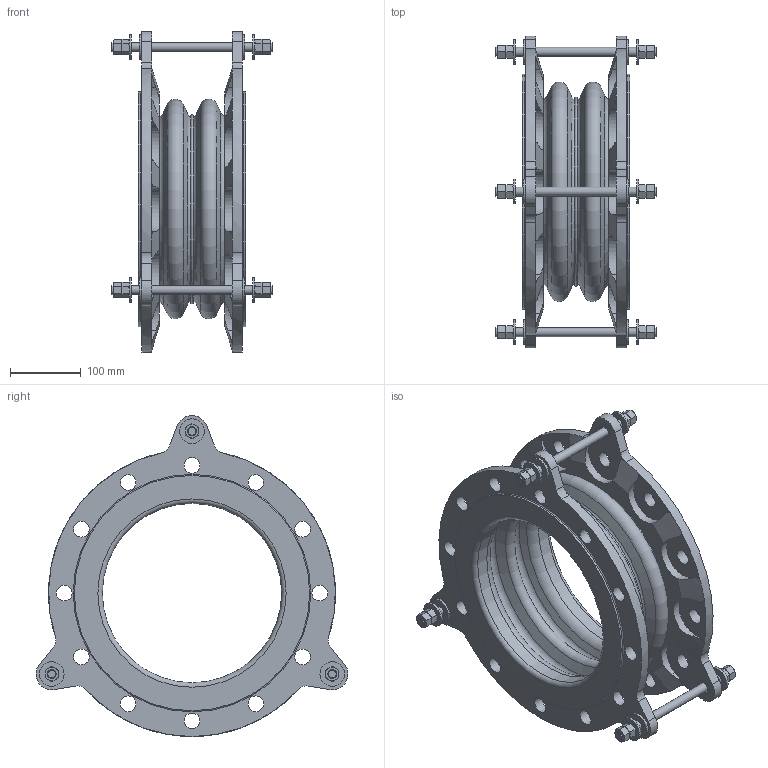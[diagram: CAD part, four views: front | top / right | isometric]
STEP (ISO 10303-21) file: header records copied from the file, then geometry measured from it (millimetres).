
FILE_DESCRIPTION(/* description */ (''),/* implementation_level */ '2;1');
FILE_NAME(/* name */ 'C:\Users\rramoutar\Desktop\802\802 10IDx6FF.stp',/* time_stamp */ '2016-04-24T11:55:46-04:00',/* author */ ('rramoutar'),/* organization */ ('Mason Industries Inc.'),/* preprocessor_version */ 'ST-DEVELOPER v15.6',/* originating_system */ 'Autodesk Inventor 2015',/* authorisation */ '');
FILE_SCHEMA (('CONFIG_CONTROL_DESIGN'));
Length unit declared in the file: inch
Products named in the file (1): 802 10IDx6FF
Bounding box: 228.6 x 441.77 x 454.82 mm (x, y, z)
Volume: 3950012.9 mm3; surface area: 886539.4 mm2
Topology: 5 solids, 5 shells, 600 faces, 1361 edges, 823 vertices
Faces by surface type: plane 218, cone 188, cylinder 173, torus 21
Full cylindrical faces by diameter (mm): 12.7 x9, 14.287 x6, 16.272 x6, 21.828 x6, 22.225 x30, 34.925 x12, 254 x2, 260.35 x2, 261.938 x2, 333.375 x2
Entity records: 17180 total; most frequent: CARTESIAN_POINT 4324, DIRECTION 2526, ORIENTED_EDGE 2464, EDGE_CURVE 1232, AXIS2_PLACEMENT_3D 1125, EDGE_LOOP 833, VERTEX_POINT 811, FACE_OUTER_BOUND 600
